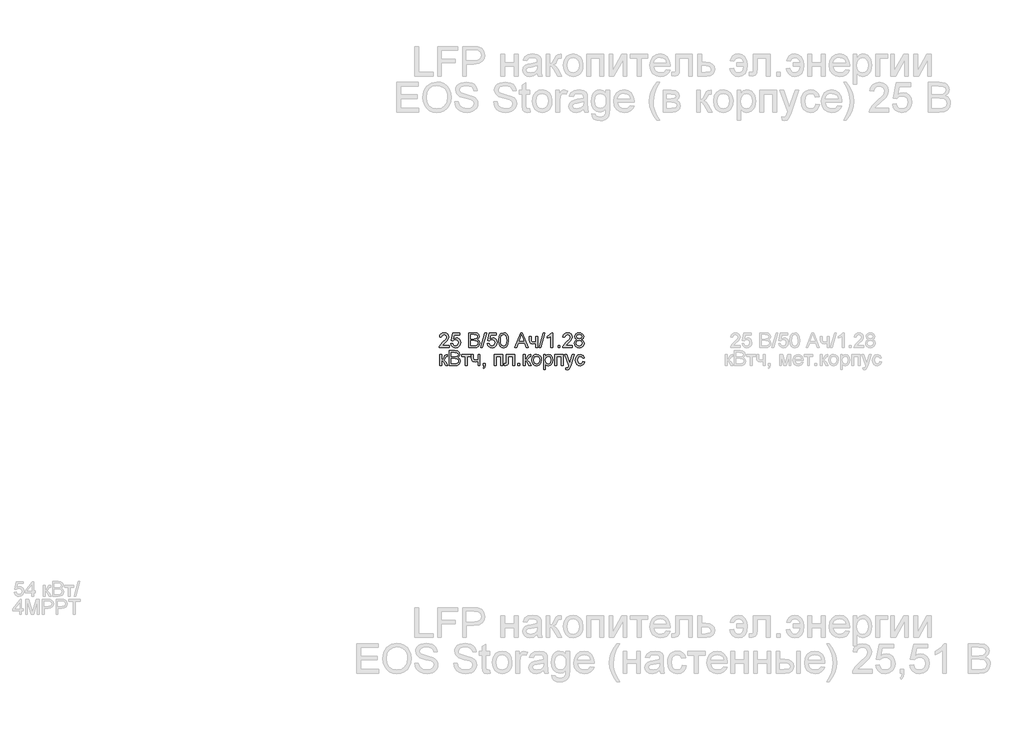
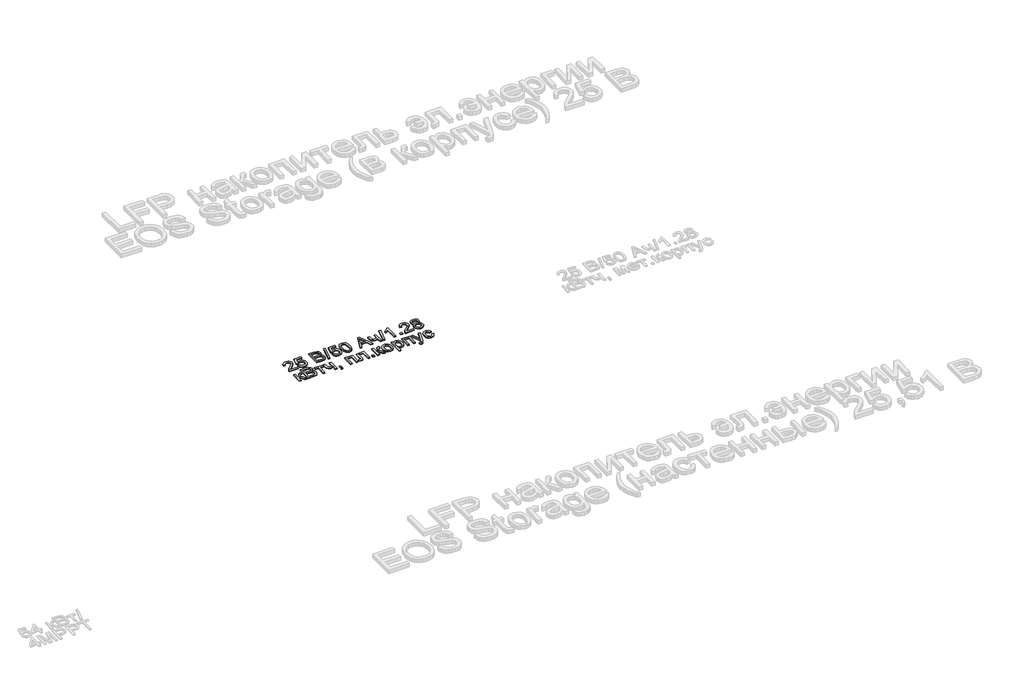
# One storey, part 19 of 26: 1 proxy.
"""IFC4 building model written with IfcOpenShell, lengths in millimetres."""

import ifcopenshell
import ifcopenshell.guid

model = None  # the IFC model being written
_history = None  # IfcOwnerHistory: only IFC2X3 demands one
_inside = {}  # id of a spatial element -> (the spatial element, [elements in it])
_under = {}  # id of a project, library or spatial element -> (it, [spatial elements below it])
_declared = {}  # id of a project -> (the project, [libraries it declares])
_typed = {}  # id of a type object -> (the type object, [elements of that type])
_made_of = {}  # id of a material, layer set ... -> (it, [elements and type objects made of it])


def new_model(schema):
    """Start an empty IFC model of exactly this schema.

    Asked for "IFC4X3", IfcOpenShell would pick the latest addendum, in which some entities
    have other attributes; the version numbers below select the first issue.
    IFC2X3 requires an IfcOwnerHistory on every rooted entity: one is made here for all.
    """
    global model, _history
    if schema == "IFC4X3":
        model = ifcopenshell.file(schema_version=(4, 3, 0, 0))
    else:
        model = ifcopenshell.file(schema=schema)
    _inside.clear()
    _under.clear()
    _declared.clear()
    _typed.clear()
    _made_of.clear()
    _history = None
    if model.schema == "IFC2X3":
        org = make("IfcOrganization", Name="unknown")
        user = make(
            "IfcPersonAndOrganization",
            ThePerson=make("IfcPerson", FamilyName="unknown"),
            TheOrganization=org,
        )
        app = make(
            "IfcApplication",
            ApplicationDeveloper=org,
            Version="unknown",
            ApplicationFullName="unknown",
            ApplicationIdentifier="unknown",
        )
        _history = make(
            "IfcOwnerHistory",
            OwningUser=user,
            OwningApplication=app,
            ChangeAction="ADDED",
            CreationDate=0,
        )
    return model


def make(cls, **values):
    """One entity of the class cls with the attributes given. An attribute that is None is left unset."""
    return model.create_entity(
        cls, **{name: value for name, value in values.items() if value is not None}
    )


def rooted(cls, **values):
    """An entity with a GlobalId (a new one), such as an element, a storey or a relation."""
    return make(cls, GlobalId=ifcopenshell.guid.new(), OwnerHistory=_history, **values)


def si_unit(unit_type, name, prefix=None):
    """IfcSIUnit, for example si_unit("LENGTHUNIT", "METRE", prefix="MILLI")."""
    return make("IfcSIUnit", UnitType=unit_type, Prefix=prefix, Name=name)


def assignment(units):
    """IfcUnitAssignment: the units of a project."""
    return None if units is None else make("IfcUnitAssignment", Units=units)


def point(xyz):
    """IfcCartesianPoint."""
    return None if xyz is None else make("IfcCartesianPoint", Coordinates=xyz)


def direction(xyz):
    """IfcDirection."""
    return None if xyz is None else make("IfcDirection", DirectionRatios=xyz)


def frame(location, z_axis=None, x_axis=None):
    """IfcAxis2Placement3D, a coordinate frame: its origin and axes. An axis left out is left unset."""
    return make(
        "IfcAxis2Placement3D",
        Location=point(location),
        Axis=direction(z_axis),
        RefDirection=direction(x_axis),
    )


def origin():
    """The frame at (0, 0, 0) with its axes left unset."""
    return frame((0.0, 0.0, 0.0))


def origin_with_axes():
    """The frame at (0, 0, 0) with the z axis (0, 0, 1) and the x axis (1, 0, 0) written out."""
    return frame((0.0, 0.0, 0.0), z_axis=(0.0, 0.0, 1.0), x_axis=(1.0, 0.0, 0.0))


def place(relative_to, where):
    """IfcLocalPlacement: puts the frame where relative to a parent placement (None: the world)."""
    return make(
        "IfcLocalPlacement", PlacementRelTo=relative_to, RelativePlacement=where
    )


def context(
    kind, dimensions, precision=None, world=None, true_north=None, identifier=None
):
    """IfcGeometricRepresentationContext, for example the 3D "Model" context."""
    return make(
        "IfcGeometricRepresentationContext",
        ContextIdentifier=identifier,
        ContextType=kind,
        CoordinateSpaceDimension=dimensions,
        Precision=precision,
        WorldCoordinateSystem=world,
        TrueNorth=true_north,
    )


def project(units=None, contexts=None):
    """IfcProject with its units and contexts."""
    return rooted(
        "IfcProject",
        Name="project",
        RepresentationContexts=contexts,
        UnitsInContext=assignment(units),
    )


def spatial(cls, under=None, at=None, **own):
    """A site, building, storey or space (cls), placed at a placement, below another one or the project."""
    s = rooted(cls, ObjectPlacement=at, **own)
    if under is not None:
        _under.setdefault(under.id(), (under, []))[1].append(s)
    return s


def polyline(points):
    """IfcPolyline through the points."""
    return make("IfcPolyline", Points=[point(p) for p in points])


def outline(outer, holes=None, kind="AREA"):
    """IfcArbitraryClosedProfileDef: a profile drawn as a closed curve; with holes, ...WithVoids."""
    if holes is None:
        return make("IfcArbitraryClosedProfileDef", ProfileType=kind, OuterCurve=outer)
    return make(
        "IfcArbitraryProfileDefWithVoids",
        ProfileType=kind,
        OuterCurve=outer,
        InnerCurves=holes,
    )


def extrude(swept, where, along, depth):
    """IfcExtrudedAreaSolid: the profile swept, set in the frame where, extruded along a direction by depth."""
    return make(
        "IfcExtrudedAreaSolid",
        SweptArea=swept,
        Position=where,
        ExtrudedDirection=direction(along),
        Depth=depth,
    )


def shape(context_of_items, identifier, shape_type, items):
    """IfcShapeRepresentation: the items that make up one representation, for example the "Body"."""
    return make(
        "IfcShapeRepresentation",
        ContextOfItems=context_of_items,
        RepresentationIdentifier=identifier,
        RepresentationType=shape_type,
        Items=items,
    )


def made_of(thing, what):
    """Note that an element or type object is made of a material, layer set ...; save() writes the relation."""
    if what is not None:
        _made_of.setdefault(what.id(), (what, []))[1].append(thing)
    return thing


def element(
    cls,
    number,
    at=None,
    inside=None,
    cuts=None,
    type_object=None,
    material=None,
    context=None,
    identifier="Body",
    shape_type=None,
    held_by="IfcProductDefinitionShape",
    body=None,
    shapes=None,
    **own,
):
    """One element of the class cls, such as IfcWall. Its Tag is "e" and its number.

    at: its placement. inside: the storey or other place that contains it. cuts: it is an
    opening in that element (IfcRelVoidsElement). A single representation is given by context,
    identifier, shape_type and body (its items); several are given by shapes. held_by: the class
    of the entity that holds the representations. save() writes the other relations.
    """
    e = rooted(cls, Tag="e%d" % number, ObjectPlacement=at, **own)
    if body is not None:
        shapes = [shape(context, identifier, shape_type, body)]
    if shapes is not None:
        e.Representation = make(held_by, Representations=shapes)
    if inside is not None:
        _inside.setdefault(inside.id(), (inside, []))[1].append(e)
    if cuts is not None:
        rooted(
            "IfcRelVoidsElement", RelatingBuildingElement=cuts, RelatedOpeningElement=e
        )
    if type_object is not None:
        _typed.setdefault(type_object.id(), (type_object, []))[1].append(e)
    return made_of(e, material)


def aggregate(whole, parts):
    """IfcRelAggregates: a whole, such as a stair, and the parts it consists of."""
    return rooted("IfcRelAggregates", RelatingObject=whole, RelatedObjects=parts)


def save(model, path):
    """Write the relations noted so far, then the file.

    IfcRelAggregates (storeys below a building ...), IfcRelContainedInSpatialStructure (elements
    in a storey), IfcRelDefinesByType, IfcRelAssociatesMaterial and IfcRelDeclares: one each for
    every whole, place, type object, material and project.
    """
    for whole, parts in _under.values():
        aggregate(whole, parts)
    for where, things in _inside.values():
        rooted(
            "IfcRelContainedInSpatialStructure",
            RelatedElements=things,
            RelatingStructure=where,
        )
    for kind, things in _typed.values():
        rooted("IfcRelDefinesByType", RelatedObjects=things, RelatingType=kind)
    for what, things in _made_of.values():
        rooted("IfcRelAssociatesMaterial", RelatedObjects=things, RelatingMaterial=what)
    for by, libraries in _declared.values():
        rooted("IfcRelDeclares", RelatingContext=by, RelatedDefinitions=libraries)
    model.write(path)


model = new_model("IFC4")

# Units and contexts
model_context = context("Model", 3, world=origin())
ifc_project = project(units=[si_unit("LENGTHUNIT", "METRE", prefix="MILLI")], contexts=[model_context])

# Site, building, storey
site = spatial("IfcSite", under=ifc_project)
building = spatial("IfcBuilding", under=site)
storey = spatial("IfcBuildingStorey", under=building, Name="Этаж 01", Elevation=0.0)

# Proxy
placement = place(None, origin())
element("IfcBuildingElementProxy", 1, Name="75 мм Arial", ObjectType="75 мм Arial", at=placement, inside=storey, context=model_context, shape_type="SweptSolid", body=[
    extrude(outline(polyline([(14420.8547245, -15385.2842708), (14420.8547245, -15394.7020499), (14371.4113843, -15394.7020499), (14372.4230598, -15388.2089327), (14378.1436249, -15378.2117395), (14389.9342428, -15367.2948413), (14406.194627, -15351.6046742), (14410.259723, -15340.9360963), (14406.4245532, -15332.3000665), (14396.4089659, -15328.7775964), (14385.9703143, -15332.217293), (14382.0063858, -15341.7270426), (14372.5886067, -15340.5498202), (14374.8717744, -15331.4401423), (14379.8082909, -15324.7860767), (14387.1406389, -15320.7163821), (14396.611301, -15319.3598173), (14406.150941, -15320.8681335), (14413.4694934, -15325.393082), (14418.1254999, -15332.1529137), (14419.6775021, -15340.3658792), (14418.003639, -15349.2962146), (14412.4394239, -15358.5300527), (14398.9473517, -15371.4335137), (14388.1132269, -15380.4926078), (14383.8641899, -15385.2842708), (14420.8547245, -15385.2842708)])), origin_with_axes(), (0.0, 0.0, 1.0), 5.0),
    extrude(outline(polyline([(14430.2725036, -15374.6892694), (14439.6902827, -15373.512047), (14444.4359604, -15383.2149346), (14454.2768038, -15386.4614932), (14466.0858158, -15381.9457417), (14470.2980647, -15369.9619857), (14466.3525303, -15358.7783731), (14454.4239566, -15354.6764888), (14446.1558087, -15356.3135637), (14440.867505, -15360.5626007), (14431.449726, -15359.3853784), (14439.6902827, -15320.5370397), (14476.1841766, -15320.5370397), (14476.1841766, -15329.9548187), (14447.30544, -15329.9548187), (14443.2771321, -15350.7033633), (14457.0543128, -15345.2587097), (14465.8535903, -15346.9463684), (14473.1583472, -15352.0093444), (14478.0764696, -15359.7256692), (14479.7158437, -15369.3733745), (14478.2397172, -15378.7911536), (14473.8113377, -15386.8477693), (14465.3316577, -15393.6213965), (14454.2400156, -15395.8792723), (14444.9900826, -15394.4284377), (14437.6209464, -15390.0759338), (14432.5694668, -15383.3275985), (14430.2725036, -15374.6892694)])), origin_with_axes(), (0.0, 0.0, 1.0), 5.0),
    extrude(outline(polyline([(14520.9186272, -15394.7020499), (14520.9186272, -15319.3598173), (14549.6686051, -15319.3598173), (14563.7492885, -15321.5763063), (14572.0634216, -15328.3913203), (14575.0708569, -15338.0298285), (14572.5416682, -15346.8314053), (14564.8989197, -15353.4992664), (14574.178743, -15360.5258125), (14577.4253016, -15372.2428541), (14575.2088126, -15382.368806), (14569.7181738, -15389.5792931), (14561.5236024, -15393.4052659), (14549.4478759, -15394.7020499), (14520.9186272, -15394.7020499)]), holes=[polyline([(14530.3364063, -15349.9675993), (14547.5348895, -15349.9675993), (14557.578068, -15349.1582589), (14563.6205298, -15345.672577), (14565.6530778, -15339.5381447), (14563.7584855, -15333.3945154), (14558.3322261, -15329.7616807), (14546.2289085, -15328.7775964), (14530.3364063, -15328.7775964), (14530.3364063, -15349.9675993)]), polyline([(14530.3364063, -15385.2842708), (14549.650211, -15385.2842708), (14556.6399689, -15384.9163888), (14562.553672, -15382.8654467), (14566.4716152, -15378.680789), (14568.0075226, -15372.3348246), (14566.2049008, -15365.0139729), (14560.3647741, -15360.6453742), (14548.730506, -15359.3853784), (14530.3364063, -15359.3853784), (14530.3364063, -15385.2842708)])]), origin_with_axes(), (0.0, 0.0, 1.0), 5.0),
    extrude(outline(polyline([(14582.1341912, -15394.7020499), (14603.3241941, -15319.3598173), (14611.8222682, -15319.3598173), (14590.6322653, -15394.7020499), (14582.1341912, -15394.7020499)])), origin_with_axes(), (0.0, 0.0, 1.0), 5.0),
    extrude(outline(polyline([(14616.2736403, -15374.6892694), (14625.6914194, -15373.512047), (14630.4370972, -15383.2149346), (14640.2779405, -15386.4614932), (14652.0869526, -15381.9457417), (14656.2992014, -15369.9619857), (14652.353667, -15358.7783731), (14640.4250933, -15354.6764888), (14632.1569455, -15356.3135637), (14626.8686418, -15360.5626007), (14617.4508627, -15359.3853784), (14625.6914194, -15320.5370397), (14662.1853133, -15320.5370397), (14662.1853133, -15329.9548187), (14633.3065767, -15329.9548187), (14629.2782689, -15350.7033633), (14643.0554496, -15345.2587097), (14651.8547271, -15346.9463684), (14659.1594839, -15352.0093444), (14664.0776063, -15359.7256692), (14665.7169805, -15369.3733745), (14664.240854, -15378.7911536), (14659.8124745, -15386.8477693), (14651.3327945, -15393.6213965), (14640.2411523, -15395.8792723), (14630.9912194, -15394.4284377), (14623.6220832, -15390.0759338), (14618.5706035, -15383.3275985), (14616.2736403, -15374.6892694)])), origin_with_axes(), (0.0, 0.0, 1.0), 5.0),
    extrude(outline(polyline([(14673.9575372, -15357.6379389), (14676.7258492, -15335.9604923), (14684.9480118, -15323.4617015), (14698.6792073, -15319.3598173), (14709.6788789, -15321.7878385), (14717.2756421, -15328.7867934), (14721.6902261, -15339.9336179), (14723.4008773, -15357.6379389), (14720.6601565, -15379.223415), (14712.465585, -15391.7497969), (14698.6792073, -15395.8792723), (14688.8935462, -15394.0858476), (14681.4623299, -15388.7055734), (14675.8337354, -15375.9630608), (14673.9575372, -15357.6379389)]), holes=[polyline([(14683.3753163, -15357.6195448), (14684.4789622, -15372.4336929), (14687.7899002, -15381.0076426), (14698.6792073, -15386.4614932), (14709.5685143, -15380.9892485), (14712.8794523, -15372.4107003), (14713.9830983, -15357.6195448), (14709.7156671, -15334.4981614), (14698.5688427, -15328.7775964), (14687.937053, -15333.8175797), (14684.5157504, -15342.9962355), (14683.3753163, -15357.6195448)])]), origin_with_axes(), (0.0, 0.0, 1.0), 5.0),
    extrude(outline(polyline([(14755.8296752, -15394.7020499), (14785.9040283, -15319.3598173), (14793.9238558, -15319.3598173), (14823.9982089, -15394.7020499), (14814.0470009, -15394.7020499), (14805.4201682, -15371.1576022), (14774.3893219, -15371.1576022), (14765.7808832, -15394.7020499), (14755.8296752, -15394.7020499)]), holes=[polyline([(14777.8474126, -15361.7398231), (14801.9804715, -15361.7398231), (14795.1930487, -15343.2169647), (14789.9139421, -15328.7775964), (14785.2234466, -15341.5982839), (14777.8474126, -15361.7398231)])]), origin_with_axes(), (0.0, 0.0, 1.0), 5.0),
    extrude(outline(polyline([(14829.3508919, -15339.3725978), (14838.768671, -15339.3725978), (14838.768671, -15349.9859934), (14839.5320262, -15359.9372014), (14843.2016491, -15365.3266726), (14850.4857126, -15367.6259351), (14863.4903411, -15364.7748496), (14863.4903411, -15339.3725978), (14872.9081202, -15339.3725978), (14872.9081202, -15394.7020499), (14863.4903411, -15394.7020499), (14863.4903411, -15373.8063526), (14847.9657209, -15377.0437141), (14837.287946, -15373.6683968), (14831.0063609, -15365.400249), (14829.3508919, -15354.6397006), (14829.3508919, -15339.3725978)])), origin_with_axes(), (0.0, 0.0, 1.0), 5.0),
    extrude(outline(polyline([(14879.9714545, -15394.7020499), (14901.1614574, -15319.3598173), (14909.6595315, -15319.3598173), (14888.4695286, -15394.7020499), (14879.9714545, -15394.7020499)])), origin_with_axes(), (0.0, 0.0, 1.0), 5.0),
    extrude(outline(polyline([(14949.4275752, -15394.7020499), (14940.0097961, -15394.7020499), (14940.0097961, -15335.9880835), (14931.0886577, -15342.3432449), (14921.1742379, -15347.0981197), (14921.1742379, -15338.1953754), (14934.9790098, -15329.3846017), (14943.3575223, -15319.3598173), (14949.4275752, -15319.3598173), (14949.4275752, -15394.7020499)])), origin_with_axes(), (0.0, 0.0, 1.0), 5.0),
    extrude(outline(polyline([(14976.50369, -15394.7020499), (14976.50369, -15385.2842708), (14985.9214691, -15385.2842708), (14985.9214691, -15394.7020499), (14976.50369, -15394.7020499)])), origin_with_axes(), (0.0, 0.0, 1.0), 5.0),
    extrude(outline(polyline([(15049.4914779, -15385.2842708), (15049.4914779, -15394.7020499), (15000.0481377, -15394.7020499), (15001.0598132, -15388.2089327), (15006.7803782, -15378.2117395), (15018.5709962, -15367.2948413), (15034.8313804, -15351.6046742), (15038.8964764, -15340.9360963), (15035.0613066, -15332.3000665), (15025.0457193, -15328.7775964), (15014.6070677, -15332.217293), (15010.6431392, -15341.7270426), (15001.2253601, -15340.5498202), (15003.5085277, -15331.4401423), (15008.4450442, -15324.7860767), (15015.7773923, -15320.7163821), (15025.2480544, -15319.3598173), (15034.7876944, -15320.8681335), (15042.1062468, -15325.393082), (15046.7622533, -15332.1529137), (15048.3142555, -15340.3658792), (15046.6403924, -15349.2962146), (15041.0761772, -15358.5300527), (15027.584105, -15371.4335137), (15016.7499803, -15380.4926078), (15012.5009432, -15385.2842708), (15049.4914779, -15385.2842708)])), origin_with_axes(), (0.0, 0.0, 1.0), 5.0),
    extrude(outline(polyline([(15072.6312554, -15353.2049608), (15064.0504078, -15347.3556371), (15061.2637017, -15338.2505577), (15062.7812149, -15330.8883193), (15067.3337546, -15324.8044708), (15074.4108845, -15320.7209807), (15083.5021683, -15319.3598173), (15092.6486344, -15320.7531703), (15099.8177348, -15324.9332295), (15104.4530479, -15331.113647), (15105.9981523, -15338.5080751), (15103.2482344, -15347.3832283), (15094.9065102, -15353.2049608), (15104.9220975, -15360.5901919), (15108.3525971, -15372.776283), (15106.6511429, -15381.7801948), (15101.5467802, -15389.2206082), (15093.6649084, -15394.2146063), (15083.630927, -15395.8792723), (15073.5969456, -15394.2077085), (15065.7150738, -15389.193017), (15060.6107112, -15381.6813265), (15058.9092569, -15372.5187656), (15062.4777123, -15360.047566), (15072.6312554, -15353.2049608)]), holes=[polyline([(15070.6814808, -15338.5264692), (15074.0200099, -15345.9208973), (15083.7412916, -15348.7903769), (15093.2694353, -15345.9392914), (15096.5803732, -15338.9495335), (15093.1590707, -15331.7114553), (15083.630927, -15328.7775964), (15074.0751922, -15331.6470759), (15070.6814808, -15338.5264692)]), polyline([(15068.327036, -15372.1876718), (15069.8997315, -15379.2785972), (15075.4639467, -15384.585295), (15083.7045034, -15386.4614932), (15094.9249043, -15382.5159588), (15098.934818, -15372.4819774), (15094.7961456, -15362.2548579), (15083.3918037, -15358.208156), (15072.3093586, -15362.1996756), (15068.327036, -15372.1876718)])]), origin_with_axes(), (0.0, 0.0, 1.0), 5.0),
    extrude(outline(polyline([(14374.9430515, -15430.8537112), (14384.3608306, -15430.8537112), (14384.3608306, -15454.3981589), (14390.6700068, -15452.7059017), (14395.8387488, -15442.8466642), (14400.1337711, -15434.3393931), (14403.9229557, -15431.5710811), (14410.811546, -15430.8537112), (14412.6141678, -15430.8537112), (14412.6141678, -15440.3266726), (14410.075782, -15440.2714903), (14405.4772571, -15441.2647717), (14402.2398955, -15447.4635833), (14398.4415139, -15454.1682327), (14393.1164221, -15457.4515795), (14404.8886459, -15468.8375272), (14414.9686126, -15486.1831633), (14404.2632465, -15486.1831633), (14394.3856149, -15469.2054092), (14389.419208, -15462.0225132), (14384.3608306, -15460.2842708), (14384.3608306, -15486.1831633), (14374.9430515, -15486.1831633), (14374.9430515, -15430.8537112)])), origin_with_axes(), (0.0, 0.0, 1.0), 5.0),
    extrude(outline(polyline([(14422.0319469, -15486.1831633), (14422.0319469, -15410.8409307), (14450.7819248, -15410.8409307), (14464.8626082, -15413.0574197), (14473.1767413, -15419.8724337), (14476.1841766, -15429.5109419), (14473.6549879, -15438.3125187), (14466.0122394, -15444.9803798), (14475.2920627, -15452.0069259), (14478.5386213, -15463.7239675), (14476.3221323, -15473.8499194), (14470.8314935, -15481.0604065), (14462.6369221, -15484.8863792), (14450.5611956, -15486.1831633), (14422.0319469, -15486.1831633)]), holes=[polyline([(14431.449726, -15441.4487127), (14448.6482092, -15441.4487127), (14458.6913877, -15440.6393723), (14464.7338495, -15437.1536904), (14466.7663975, -15431.0192581), (14464.8718052, -15424.8756288), (14459.4455458, -15421.2427941), (14447.3422282, -15420.2587097), (14431.449726, -15420.2587097), (14431.449726, -15441.4487127)]), polyline([(14431.449726, -15476.7653842), (14450.7635307, -15476.7653842), (14457.7532886, -15476.3975022), (14463.6669917, -15474.3465601), (14467.5849349, -15470.1619024), (14469.1208423, -15463.815938), (14467.3182205, -15456.4950863), (14461.4780938, -15452.1264876), (14449.8438257, -15450.8664917), (14431.449726, -15450.8664917), (14431.449726, -15476.7653842)])]), origin_with_axes(), (0.0, 0.0, 1.0), 5.0),
    extrude(outline(polyline([(14485.6019557, -15430.8537112), (14530.3364063, -15430.8537112), (14530.3364063, -15440.2714903), (14512.6780705, -15440.2714903), (14512.6780705, -15486.1831633), (14503.2602914, -15486.1831633), (14503.2602914, -15440.2714903), (14485.6019557, -15440.2714903), (14485.6019557, -15430.8537112)])), origin_with_axes(), (0.0, 0.0, 1.0), 5.0),
    extrude(outline(polyline([(14535.0452958, -15430.8537112), (14544.4630749, -15430.8537112), (14544.4630749, -15441.4671068), (14545.22643, -15451.4183147), (14548.8960529, -15456.807786), (14556.1801164, -15459.1070484), (14569.184745, -15456.255963), (14569.184745, -15430.8537112), (14578.602524, -15430.8537112), (14578.602524, -15486.1831633), (14569.184745, -15486.1831633), (14569.184745, -15465.287466), (14553.6601248, -15468.5248275), (14542.9823498, -15465.1495102), (14536.7007648, -15456.8813624), (14535.0452958, -15446.120814), (14535.0452958, -15430.8537112)])), origin_with_axes(), (0.0, 0.0, 1.0), 5.0),
    extrude(outline(polyline([(14595.0836374, -15486.1831633), (14595.0836374, -15476.7653842), (14604.5014165, -15476.7653842), (14604.5014165, -15486.1831633), (14602.8091593, -15495.8124745), (14597.4380822, -15501.4870543), (14595.0836374, -15497.9553871), (14598.5417282, -15493.8902911), (14599.7741329, -15486.1831633), (14595.0836374, -15486.1831633)])), origin_with_axes(), (0.0, 0.0, 1.0), 5.0),
    extrude(outline(polyline([(14651.5903119, -15430.8537112), (14693.9703177, -15430.8537112), (14693.9703177, -15486.1831633), (14684.5525386, -15486.1831633), (14684.5525386, -15440.2714903), (14661.008091, -15440.2714903), (14661.008091, -15486.1831633), (14651.5903119, -15486.1831633), (14651.5903119, -15430.8537112)])), origin_with_axes(), (0.0, 0.0, 1.0), 5.0),
    extrude(outline(polyline([(14712.8058759, -15430.8537112), (14755.1858817, -15430.8537112), (14755.1858817, -15486.127981), (14745.7681026, -15486.127981), (14745.7681026, -15440.2714903), (14722.2236549, -15440.2714903), (14722.2236549, -15466.6670234), (14721.5890585, -15478.8439175), (14718.1033766, -15483.9850684), (14709.8628199, -15486.1831633), (14702.2108744, -15485.7049167), (14702.2108744, -15476.7653842), (14706.4231233, -15476.7653842), (14710.6813574, -15476.1859701), (14712.3828116, -15474.3465601), (14712.8058759, -15466.1335945), (14712.8058759, -15430.8537112)])), origin_with_axes(), (0.0, 0.0, 1.0), 5.0),
    extrude(outline(polyline([(14771.6669951, -15486.1831633), (14771.6669951, -15476.7653842), (14781.0847742, -15476.7653842), (14781.0847742, -15486.1831633), (14771.6669951, -15486.1831633)])), origin_with_axes(), (0.0, 0.0, 1.0), 5.0),
    extrude(outline(polyline([(14798.7431099, -15430.8537112), (14808.160889, -15430.8537112), (14808.160889, -15454.3981589), (14814.4700652, -15452.7059017), (14819.6388073, -15442.8466642), (14823.9338296, -15434.3393931), (14827.7230141, -15431.5710811), (14834.6116045, -15430.8537112), (14836.4142263, -15430.8537112), (14836.4142263, -15440.3266726), (14833.8758405, -15440.2714903), (14829.2773155, -15441.2647717), (14826.039954, -15447.4635833), (14822.2415724, -15454.1682327), (14816.9164805, -15457.4515795), (14828.6887044, -15468.8375272), (14838.768671, -15486.1831633), (14828.063305, -15486.1831633), (14818.1856734, -15469.2054092), (14813.2192665, -15462.0225132), (14808.160889, -15460.2842708), (14808.160889, -15486.1831633), (14798.7431099, -15486.1831633), (14798.7431099, -15430.8537112)])), origin_with_axes(), (0.0, 0.0, 1.0), 5.0),
    extrude(outline(polyline([(14842.3003382, -15458.5184372), (14844.3374847, -15445.1781164), (14850.4489244, -15435.801724), (14857.9997023, -15431.2077976), (14867.0404024, -15429.6764888), (14876.9341288, -15431.5411907), (14884.8366939, -15437.1352963), (14890.0169322, -15446.0173472), (14891.7436783, -15457.7458851), (14888.6902578, -15474.5029099), (14879.7967105, -15483.9850684), (14867.0404024, -15487.3603857), (14857.0271143, -15485.5025816), (14849.1337462, -15479.9291694), (14844.0086902, -15470.8608782), (14842.3003382, -15458.5184372)]), holes=[polyline([(14851.7181173, -15458.5000431), (14856.0775189, -15473.0957613), (14867.0404024, -15477.9426066), (14877.9664976, -15473.0681702), (14882.3258993, -15458.2057375), (14877.9389065, -15443.9411132), (14867.0404024, -15439.0942679), (14856.0775189, -15443.9227191), (14851.7181173, -15458.5000431)])]), origin_with_axes(), (0.0, 0.0, 1.0), 5.0),
    extrude(outline(polyline([(14902.3386798, -15507.3731662), (14902.3386798, -15430.8537112), (14911.7564589, -15430.8537112), (14911.7564589, -15440.0875493), (14918.2679702, -15432.2792539), (14927.0603499, -15429.6764888), (14938.9981206, -15433.3185206), (14946.7972189, -15443.5824282), (14949.4275752, -15458.0953729), (14946.4569281, -15473.3532787), (14937.8300953, -15483.7459451), (14925.9199157, -15487.3603857), (14917.7253442, -15484.9415615), (14911.7564589, -15478.8255234), (14911.7564589, -15507.3731662), (14902.3386798, -15507.3731662)]), holes=[polyline([(14911.7564589, -15458.9598956), (14915.830752, -15473.3072935), (14925.7175806, -15477.9426066), (14935.8067443, -15473.1417466), (14940.0097961, -15458.2609198), (14935.9079118, -15443.8767338), (14926.1038567, -15439.0942679), (14916.1066635, -15444.1802365), (14911.7564589, -15458.9598956)])]), origin_with_axes(), (0.0, 0.0, 1.0), 5.0),
    extrude(outline(polyline([(14960.0225766, -15430.8537112), (15002.4025825, -15430.8537112), (15002.4025825, -15486.1831633), (14992.9848034, -15486.1831633), (14992.9848034, -15440.2714903), (14969.4403557, -15440.2714903), (14969.4403557, -15486.1831633), (14960.0225766, -15486.1831633), (14960.0225766, -15430.8537112)])), origin_with_axes(), (0.0, 0.0, 1.0), 5.0),
    extrude(outline(polyline([(15016.5292511, -15507.3731662), (15015.3520287, -15498.304875), (15020.1344946, -15499.1326095), (15024.6042609, -15498.0933429), (15027.3449817, -15495.1962722), (15029.9201557, -15488.2616966), (15030.6559197, -15485.9808282), (15010.6431392, -15430.8537112), (15020.575953, -15430.8537112), (15031.1893486, -15461.5718578), (15034.8865627, -15473.8591164), (15038.5837767, -15463.0065976), (15049.4914779, -15430.8537112), (15059.3507153, -15430.8537112), (15040.0920929, -15487.5075385), (15035.0888977, -15499.7947971), (15029.6258501, -15506.4350671), (15022.2866043, -15508.5503886), (15016.5292511, -15507.3731662)])), origin_with_axes(), (0.0, 0.0, 1.0), 5.0),
    extrude(outline(polyline([(15102.4664852, -15466.1703827), (15111.8842642, -15467.3476051), (15104.3242892, -15482.0536879), (15089.3882802, -15487.3603857), (15079.3703937, -15485.5094794), (15071.5368064, -15479.9567605), (15066.4807282, -15470.9459509), (15064.7953689, -15458.7207723), (15067.6740455, -15443.0765905), (15076.4480311, -15433.024215), (15089.2595215, -15429.6764888), (15103.5793282, -15434.2750138), (15110.7070419, -15447.3348246), (15101.2892628, -15448.512047), (15096.9206641, -15441.4579097), (15089.3330979, -15439.0942679), (15078.4161997, -15443.7479751), (15074.2131479, -15458.4632549), (15078.3242292, -15473.3164905), (15089.0755805, -15477.9426066), (15097.9507337, -15475.0547329), (15102.4664852, -15466.1703827)])), origin_with_axes(), (0.0, 0.0, 1.0), 5.0),
])

save(model, "model.ifc")
